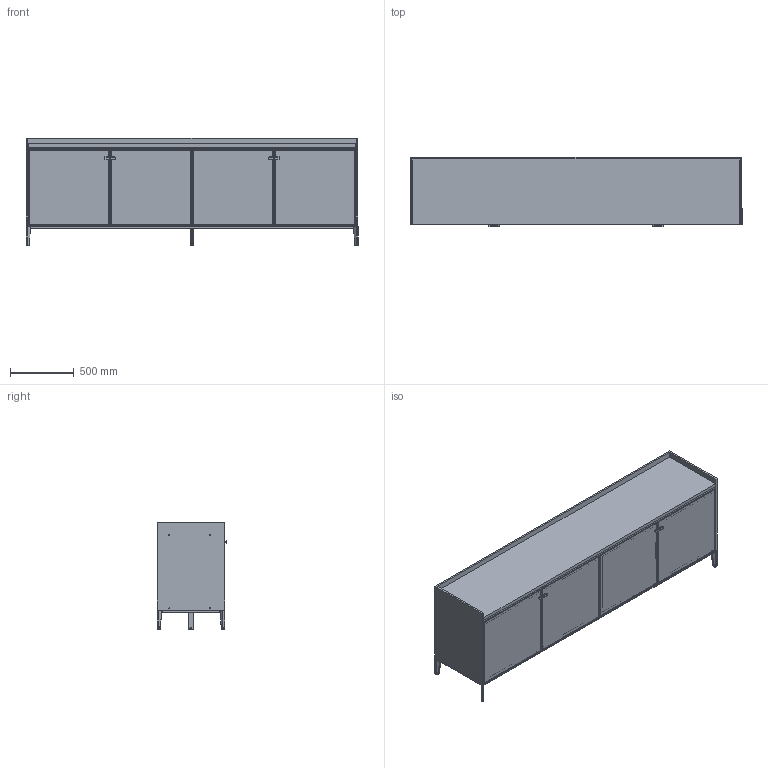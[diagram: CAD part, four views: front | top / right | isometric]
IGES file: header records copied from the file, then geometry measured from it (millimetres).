
Global section: file name: Z:\3D_LQ\2024-2025\madia-Klass\x-web\SEG260\3D_Segesta-260.igs; native system: Rhinoceros ( Aug 11 2021 ); preprocessor: Trout Lake IGES 012 Aug 11 2021; date: 250404.152910; units: millimetre
Bounding box: 2604 x 547.66 x 845 mm (x, y, z)
Surface area: 26789405 mm2 (no closed solid volume)
Topology: 0 solids, 0 shells, 2072 faces, 11896 edges, 11705 vertices
Faces by surface type: bspline 2072
